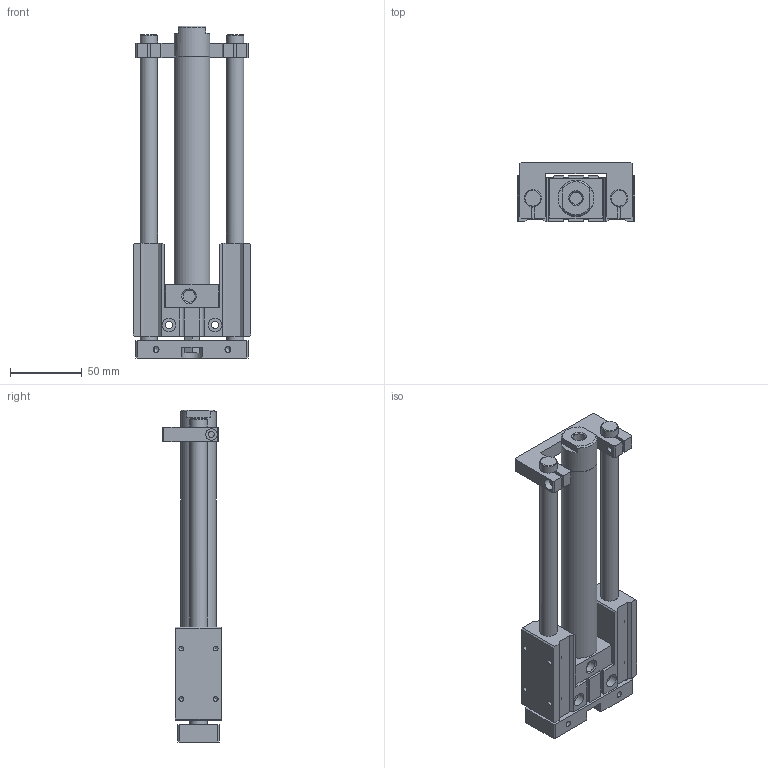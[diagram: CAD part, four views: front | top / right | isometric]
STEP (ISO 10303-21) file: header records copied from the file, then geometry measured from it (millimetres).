
FILE_DESCRIPTION((''),'2;1');
FILE_NAME('I:\3D電子目錄\氣缸\TMB(U)\TMB(U)\TMB(U)20\TMB(U)20x125.stp','2007-10-04T15:01:31',('Administrator'),(''),'Autodesk Inventor 11','Autodesk Inventor 11','');
FILE_SCHEMA(('AUTOMOTIVE_DESIGN { 1 0 10303 214 1 1 1 1 }'));
Length unit declared in the file: millimetre
Products named in the file (1): TMB(U)20
Bounding box: 82 x 41 x 231 mm (x, y, z)
Volume: 277548.5 mm3; surface area: 66611.4 mm2
Topology: 1 solids, 1 shells, 244 faces, 668 edges, 432 vertices
Faces by surface type: plane 139, bspline 50, cone 28, cylinder 25, torus 2
Full cylindrical faces by diameter (mm): 3.242 x4, 4.134 x4, 8 x1, 10 x2, 11 x2, 12 x3, 25 x2
Entity records: 7581 total; most frequent: CARTESIAN_POINT 2093, ORIENTED_EDGE 1088, DIRECTION 1054, EDGE_CURVE 544, VERTEX_POINT 384, EDGE_LOOP 368, AXIS2_PLACEMENT_3D 355, VECTOR 344
